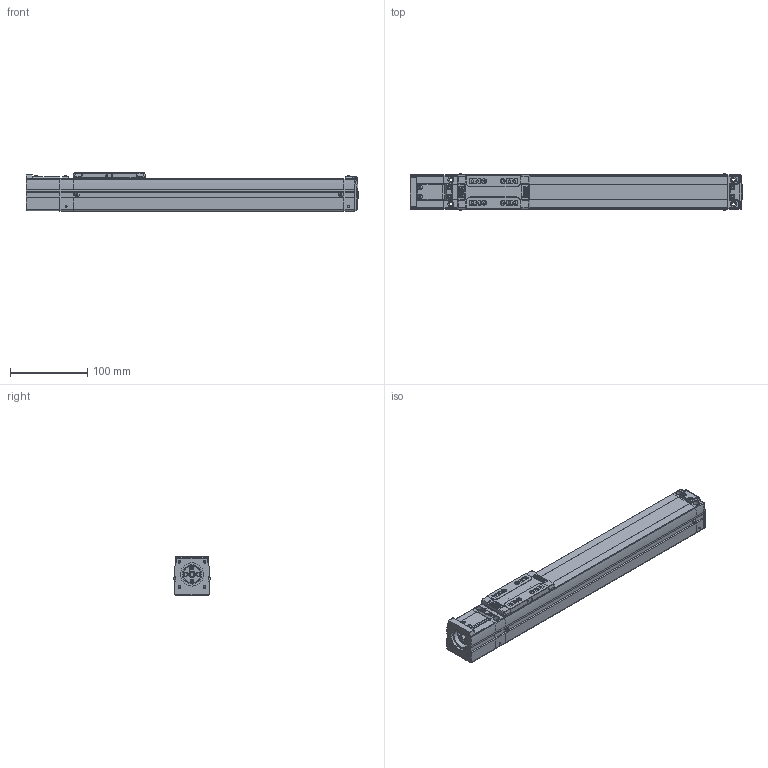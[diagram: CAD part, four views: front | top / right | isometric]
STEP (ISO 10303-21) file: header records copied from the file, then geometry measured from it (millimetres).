
FILE_DESCRIPTION(('STEP AP214'),'1');
FILE_NAME('Z:/Web/3D/SAN45/STP/SAN45ㅁㅁ-250S.stp','2012-06-15T05:09:08',(' '),(' '),'Spatial InterOp 3D',' ',' ');
FILE_SCHEMA(('automotive_design'));
Length unit declared in the file: metre
Products named in the file (63): SAN45__-250; BODY-SAN45; REAR-SAN45; RRCV-SAN45; BHCS M3 x 6L; BHCS M3 X 6L; FRONT-SAN45; SHAFT; RN8 x 0.75; SSFX-SAN45; SLIDE-SAN45; SLCV-IM45; FHCS M3 x 6L; ____91; S; MTHZ-SAN45; SDWB 22C-6-8; SDWB22C(2); SDWB22C(2)_1; SDWB22C(3); SDWB22C(3)_1; SDWB22C(3)_2; SDWB22C(3)_3; SDWB22C(3)_4; SDWB22C(3)_5; SDWB22C(3)_6; SDWB22C(3)_7; SDWB22C(3)_8; SDWB22C(3)_9; SDWB22C(3)_10; SDWB22C(3)_11; SDWB22C(3)_12; SDWB22C(3)_13; SDWB22C(3)_14; SDWB22C(3)_15; SDWB22C(4); SDWB22C(5); SDWB22C(5)_1; SDWB22C(5)_2; SDWB22C(5)_3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
Assembly tree (62 placements, depth 4):
  ____91
    SAN45__-250
      BODY-SAN45
      REAR-SAN45
        REAR-SAN45
        RRCV-SAN45
        BHCS M3 x 6L
        BHCS M3 X 6L
        BHCS M3 x 6L
        BHCS M3 x 6L
        BHCS M3 x 6L
        BHCS M3 x 6L
      FRONT-SAN45
        FRONT-SAN45
        SHAFT
        RN8 x 0.75
        SSFX-SAN45
        BHCS M3 x 6L
        BHCS M3 x 6L
        BHCS M3 x 6L
        BHCS M3 x 6L
      SLIDE-SAN45
        SLIDE-SAN45
        SLCV-IM45
        FHCS M3 x 6L
        FHCS M3 x 6L
        FHCS M3 x 6L
        FHCS M3 x 6L
    S
      MTHZ-SAN45
      SDWB 22C-6-8
        SDWB22C(2)
        SDWB22C(2)_1
        SDWB22C(3)
        SDWB22C(3)_1
        SDWB22C(3)_2
        SDWB22C(3)_3
        SDWB22C(3)_4
        SDWB22C(3)_5
        SDWB22C(3)_6
        SDWB22C(3)_7
        SDWB22C(3)_8
        SDWB22C(3)_9
        SDWB22C(3)_10
        SDWB22C(3)_11
        SDWB22C(3)_12
        SDWB22C(3)_13
        SDWB22C(3)_14
        SDWB22C(3)_15
        SDWB22C(4)
        SDWB22C(5)
        SDWB22C(5)_1
        SDWB22C(5)_2
        SDWB22C(5)_3
        SDWB22C(5)_4
        SDWB22C(5)_5
        SDWB22C(5)_6
        SDWB22C(5)_7
        SDWA22C(1)
        SDWA22C(1)
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Bounding box: 430.15 x 47.13 x 50 mm (x, y, z)
Volume: 782250.4 mm3; surface area: 141960.4 mm2
Topology: 56 solids, 56 shells, 1809 faces, 4636 edges, 3013 vertices
Faces by surface type: plane 1031, cylinder 554, cone 144, bspline 42, sphere 24, torus 11, extrusion 3
Full cylindrical faces by diameter (mm): 0.376 x2, 0.47 x1, 1.137 x2, 1.421 x1, 1.665 x4, 2.081 x2, 2.2 x4, 2.5 x39, 2.6 x14, 2.7 x2, 3 x10, 3.193 x4, 3.3 x8, 3.4 x4, 3.5 x8, 3.991 x2, 4.2 x8, 4.5 x28, 4.9 x2, 5 x13, 6 x9, 7 x1, 8 x9, 9 x1, 10.7 x2, 13 x1, 15 x1, 19 x1, 22.2 x3, 25 x1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
Entity records: 72601 total; most frequent: CARTESIAN_POINT 13870, DIRECTION 9091, ORIENTED_EDGE 8360, EDGE_CURVE 4180, AXIS2_PLACEMENT_3D 3231, VERTEX_POINT 2894, VECTOR 2629, LINE 2626
